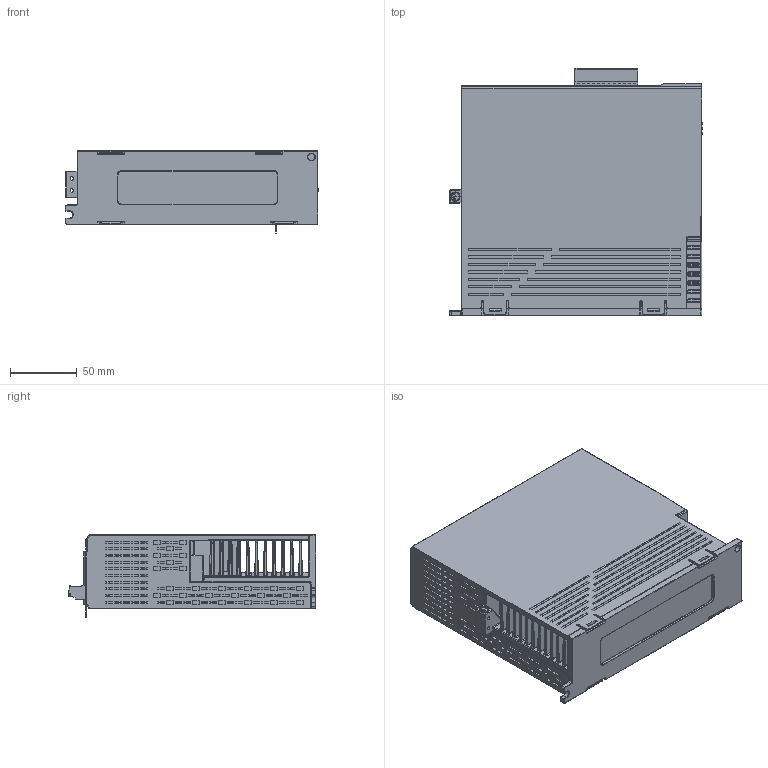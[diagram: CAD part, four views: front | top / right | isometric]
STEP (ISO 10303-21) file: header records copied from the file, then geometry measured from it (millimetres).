
FILE_DESCRIPTION(/* description */ (''),/* implementation_level */ '2;1');
FILE_NAME(/* name */ 'DS5L1-20P7-PTA-官网图',/* time_stamp */ '2021-09-29T15:37:03+08:00',/* author */ (''),/* organization */ (''),/* preprocessor_version */ 'ST-DEVELOPER v15',/* originating_system */ '',/* authorisation */ '');
FILE_SCHEMA (('AUTOMOTIVE_DESIGN'));
Products named in the file (1): Document
Bounding box: 189.5 x 185.4 x 61.51 mm (x, y, z)
Surface area: 366224.4 mm2 (no closed solid volume)
Topology: 0 solids, 6545 shells, 6546 faces, 33201 edges, 32854 vertices
Faces by surface type: plane 4240, bspline 2306
Entity records: 389710 total; most frequent: CARTESIAN_POINT 209289, ORIENTED_EDGE 32858, EDGE_CURVE 32856, VERTEX_POINT 32854, B_SPLINE_CURVE_WITH_KNOTS 27903, EDGE_LOOP 7272, ADVANCED_FACE 6546, FACE_OUTER_BOUND 6546
